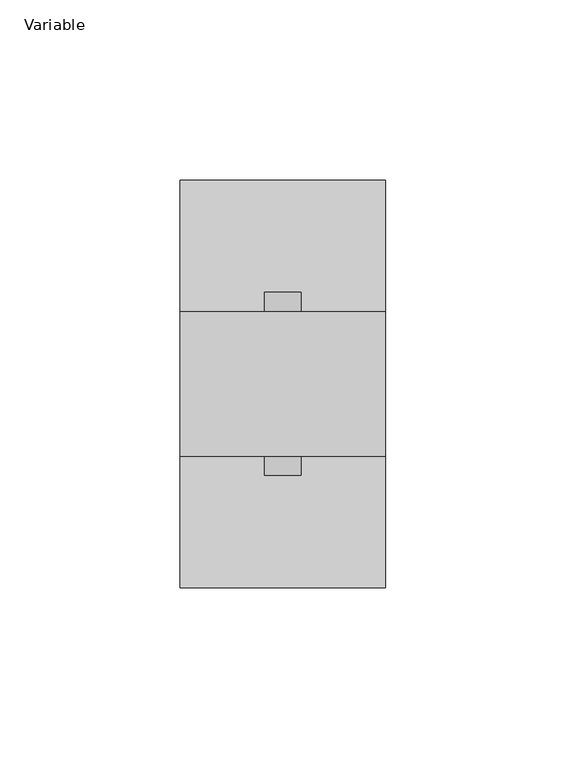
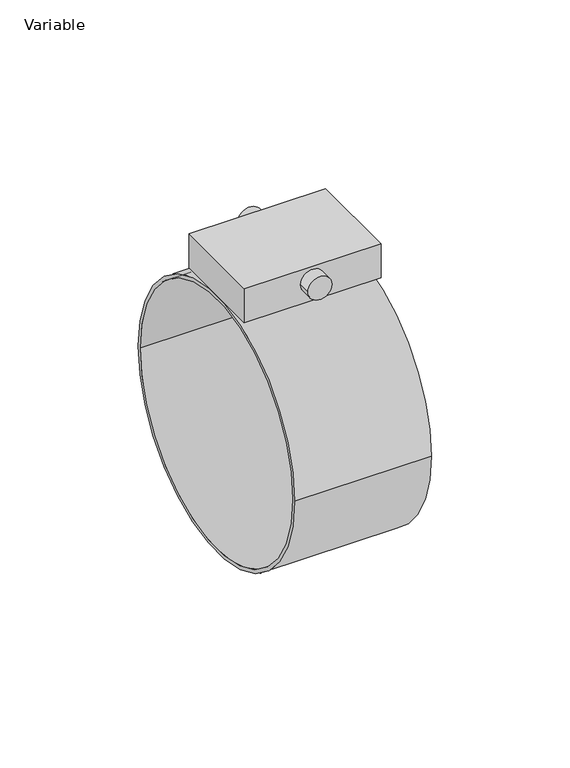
"""IFC4 building model written with IfcOpenShell, lengths in millimetres: pipe fitting geometry, AliaxisFR_Friaphon_AdaptorFriaphonCastiron_FR : Variable."""

from ifc_helpers import new_model, si_unit, point, frame, origin, origin_2d, place, context, project, spatial, circle_curve, trimmed, segment, composite_curve, outline, extrude, source, transform, mapped, element, save
from ifc_brep_helpers import plane_surface, cylinder_surface, advanced_brep


def variable_e40f4adc(model_context):
    return source(origin(), model_context, "Body", "SolidModel", [
        advanced_brep(
        [(57.0, -20.0, 71.5), (57.0, 20.0, 71.5), (0.0, 20.0, 71.5), (0.0, -20.0, 71.5), (57.0, -20.0, 56.5), (0.0, -20.0, 56.5), (0.0, 20.0, 56.5), (57.0, 20.0, 56.5), (23.5, 20.0, 65.1339712), (33.5, 20.0, 65.1339712), (33.5, -20.0, 65.1339712), (23.5, -20.0, 65.1339712), (23.5, -25.3857929, 65.1339712), (33.5, -25.3857929, 65.1339712), (23.5, 25.3857929, 65.1339712), (33.5, 25.3857929, 65.1339712)],
        [
            (0, 1),
            (1, 2),
            (2, 3),
            (3, 0),
            (4, 5),
            (5, 6),
            (6, 7),
            (7, 4),
            (0, 4),
            (7, 1),
            (6, 2),
            (8, 9, circle_curve(frame((28.5, 20.0, 65.1339712), z_axis=(0.0, -1.0, 0.0), x_axis=(1.0, 0.0, 0.0)), 5.0)),
            (9, 8, circle_curve(frame((28.5, 20.0, 65.1339712), z_axis=(0.0, -1.0, 0.0), x_axis=(1.0, 0.0, 0.0)), 5.0)),
            (5, 3),
            (10, 11, circle_curve(frame((28.5, -20.0, 65.1339712), z_axis=(0.0, 1.0, 0.0), x_axis=(1.0, 0.0, 0.0)), 5.0)),
            (11, 10, circle_curve(frame((28.5, -20.0, 65.1339712), z_axis=(0.0, 1.0, 0.0), x_axis=(1.0, 0.0, 0.0)), 5.0)),
            (12, 13, circle_curve(frame((28.5, -25.3857929, 65.1339712), z_axis=(0.0, -1.0, 0.0), x_axis=(1.0, 0.0, 0.0)), 5.0)),
            (13, 12, circle_curve(frame((28.5, -25.3857929, 65.1339712), z_axis=(0.0, -1.0, 0.0), x_axis=(1.0, 0.0, 0.0)), 5.0)),
            (14, 15, circle_curve(frame((28.5, 25.3857929, 65.1339712), z_axis=(0.0, 1.0, 0.0), x_axis=(1.0, 0.0, 0.0)), 5.0)),
            (15, 14, circle_curve(frame((28.5, 25.3857929, 65.1339712), z_axis=(0.0, 1.0, 0.0), x_axis=(1.0, 0.0, 0.0)), 5.0)),
            (12, 11),
            (10, 13),
            (15, 9),
            (8, 14),
        ],
        [
            plane_surface(frame((57.0, -20.0, 71.5), z_axis=(0.0, 0.0, 1.0), x_axis=(0.0, 1.0, 0.0))),
            plane_surface(frame((57.0, -20.0, 56.5), z_axis=(0.0, 0.0, -1.0), x_axis=(0.0, -1.0, 0.0))),
            plane_surface(frame((57.0, -20.0, 71.5), z_axis=(1.0, 0.0, 0.0), x_axis=(0.0, 0.0, -1.0))),
            plane_surface(frame((57.0, 20.0, 71.5), z_axis=(0.0, 1.0, 0.0), x_axis=(0.0, 0.0, -1.0))),
            plane_surface(frame((0.0, 20.0, 71.5), z_axis=(-1.0, 0.0, 0.0), x_axis=(0.0, 0.0, -1.0))),
            plane_surface(frame((0.0, -20.0, 71.5), z_axis=(0.0, -1.0, 0.0), x_axis=(0.0, 0.0, -1.0))),
            plane_surface(frame((33.5, -25.3857929, 65.1339712), z_axis=(0.0, -1.0, 0.0), x_axis=(0.0, 0.0, 1.0))),
            plane_surface(frame((33.5, 25.3857929, 65.1339712), z_axis=(0.0, 1.0, 0.0), x_axis=(0.0, 0.0, -1.0))),
            cylinder_surface(frame((28.5, 25.3857929, 65.1339712), z_axis=(0.0, -1.0, 0.0), x_axis=(1.0, 0.0, 0.0)), 5.0),
        ],
        [
            (0, [[1, 2, 3, 4]]),
            (1, [[5, 6, 7, 8]]),
            (2, [[-1, 9, -8, 10]]),
            (3, [[-2, -10, -7, 11], [12, 13]]),
            (4, [[-3, -11, -6, 14]]),
            (5, [[-4, -14, -5, -9], [15, 16]]),
            (6, [[17, 18]]),
            (7, [[19, 20]]),
            (8, [[-17, 21, -15, 22]]),
            (8, [[-20, 23, -12, 24]]),
            (8, [[-18, -22, -16, -21]]),
            (8, [[-19, -24, -13, -23]]),
        ],
    ),
        extrude(outline(composite_curve([segment(trimmed(circle_curve(origin_2d(), 56.5), [point((-56.5, 0.0))], [point((56.5, 0.0))], False, "CARTESIAN"), True, "CONTINUOUS"), segment(trimmed(circle_curve(origin_2d(), 56.5), [point((56.5, 0.0))], [point((-56.5, 0.0))], False, "CARTESIAN"), True, "CONTINUOUS")], self_intersect=False), holes=[composite_curve([segment(trimmed(circle_curve(origin_2d(), 55.0), [point((-55.0, 0.0))], [point((55.0, 0.0))], True, "CARTESIAN"), True, "CONTINUOUS"), segment(trimmed(circle_curve(origin_2d(), 55.0), [point((55.0, 0.0))], [point((-55.0, 0.0))], True, "CARTESIAN"), True, "CONTINUOUS")], self_intersect=False)]), frame((0.0, 0.0, 0.0), z_axis=(1.0, 0.0, 0.0), x_axis=(0.0, 1.0, 0.0)), (0.0, 0.0, 1.0), 57.0),
    ])


if __name__ == "__main__":
    model = new_model("IFC4")
    model_context = context("Model", 3, world=origin())
    ifc_project = project(units=[si_unit("LENGTHUNIT", "METRE", prefix="MILLI")], contexts=[model_context])
    site = spatial("IfcSite", under=ifc_project)
    building = spatial("IfcBuilding", under=site)
    placement = place(None, origin())
    variable_shape = variable_e40f4adc(model_context)
    element("IfcPipeFitting", 1, ObjectType="AliaxisFR_Friaphon_AdaptorFriaphonCastiron_FR : Variable", at=placement, inside=building, context=model_context, shape_type="MappedRepresentation", body=[
        mapped(variable_shape, transform((0.0, 0.0, 0.0), x_axis=(1.0, 0.0, 0.0), y_axis=(0.0, 1.0, 0.0), z_axis=(0.0, 0.0, 1.0))),
    ])
    save(model, "model.ifc")
